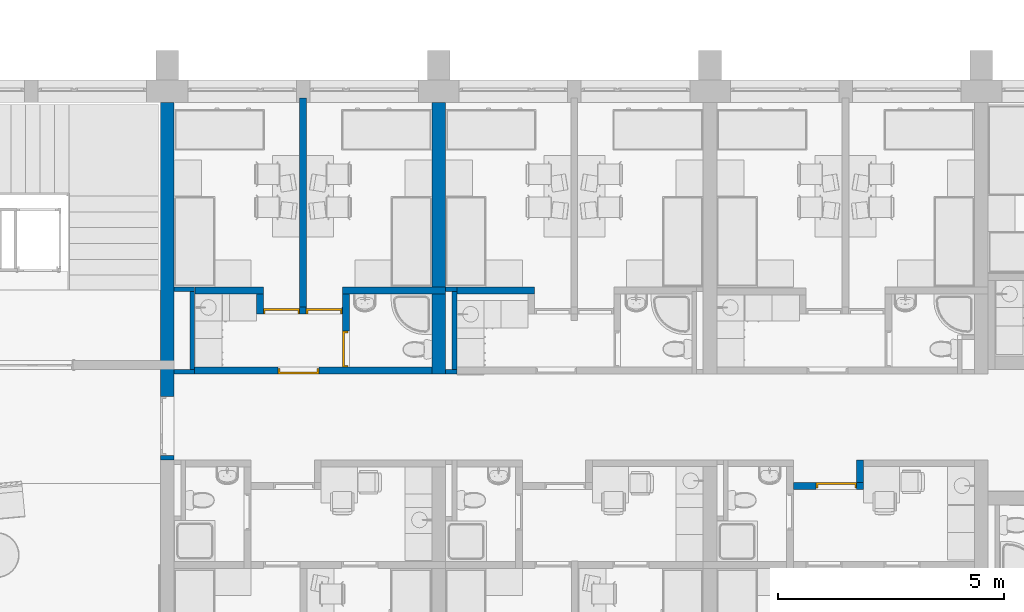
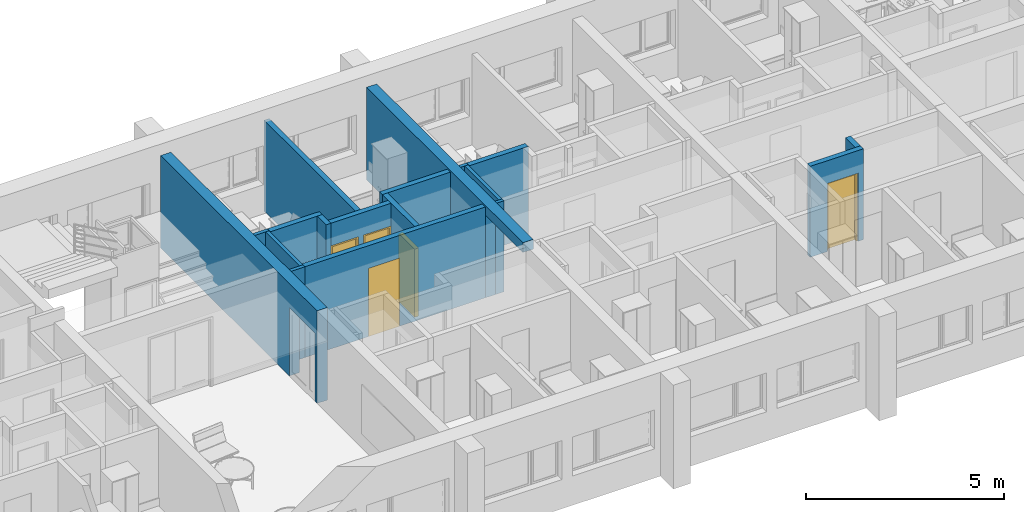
# One storey, part 16 of 165: 18 walls, 5 doors, 7 openings.
"""IFC2X3 building model written with IfcOpenShell, lengths in millimetres."""

from ifc_helpers import new_model, entity, si_unit, converted_unit, money_unit, direction, frame, origin_with_axes, place, context, subcontext, project, spatial, polyline, outline, extrude, faceted_brep, source, transform, mapped, material, material_list, layer, layer_set, layer_usage, type_object, element, fill, save


model = new_model("IFC2X3")

# Units and contexts
model_context = context("Model", 3, precision=1e-05, world=origin_with_axes(), true_north=direction((0.0, 1.0)))
body_context = subcontext(model_context, "Body", "Model", "MODEL_VIEW")
ifc_project = project(units=[si_unit("LENGTHUNIT", "METRE", prefix="MILLI"), si_unit("AREAUNIT", "SQUARE_METRE"), si_unit("VOLUMEUNIT", "CUBIC_METRE"), converted_unit("PLANEANGLEUNIT", "DEGREE", entity("IfcPlaneAngleMeasure", 0.0174532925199), si_unit("PLANEANGLEUNIT", "RADIAN"), dimensions=[0, 0, 0, 0, 0, 0, 0]), si_unit("SOLIDANGLEUNIT", "STERADIAN"), money_unit("USD"), converted_unit("TIMEUNIT", "Year", entity("IfcTimeMeasure", 31556926.0), si_unit("TIMEUNIT", "SECOND"), dimensions=[0, 0, 0, 0, 0, 0, 0]), si_unit("MASSUNIT", "GRAM"), si_unit("THERMODYNAMICTEMPERATUREUNIT", "DEGREE_CELSIUS"), si_unit("LUMINOUSINTENSITYUNIT", "LUMEN")], contexts=[model_context])

# Site, building, storey
site_placement = place(None, origin_with_axes())
site = spatial("IfcSite", under=ifc_project, at=site_placement, Name="Site", CompositionType="ELEMENT")
building_placement = place(site_placement, origin_with_axes())
building = spatial("IfcBuilding", under=site, at=building_placement, Name="Building", CompositionType="ELEMENT")
storey_placement = place(building_placement, frame((0.0, 0.0, 6300.0), z_axis=(0.0, 0.0, 1.0), x_axis=(1.0, 0.0, 0.0)))
storey = spatial("IfcBuildingStorey", under=building, at=storey_placement, Name="4KORRUS", CompositionType="ELEMENT", Elevation=6300.0)

# Wall, opening, door
ifc_material_1 = material(Name="UmbKipsplaat")
ifc_layer_1 = layer(ifc_material_1, 13.0, ventilated="UNKNOWN")
ifc_layer_2 = layer(ifc_material_1, 13.0, ventilated="UNKNOWN")
ifc_material_2 = material(Name="SOOJUSTUS MINERAALVILL")
ifc_layer_3 = layer(ifc_material_2, 98.0, ventilated="UNKNOWN")
ifc_layer_4 = layer(ifc_material_1, 13.0, ventilated="UNKNOWN")
ifc_layer_5 = layer(ifc_material_1, 13.0, ventilated="UNKNOWN")
ifc_layer_set_1 = layer_set([ifc_layer_1, ifc_layer_2, ifc_layer_3, ifc_layer_4, ifc_layer_5], Name="kipssein150")
ifc_layer_usage_1 = layer_usage(ifc_layer_set_1, "AXIS2", "POSITIVE", -150.0)
wall_type_1 = type_object("IfcWallType", Name="kipssein150 150", PredefinedType="NOTDEFINED")
wall_1_placement = place(storey_placement, frame((7703.60828238, -13539.4524083, 0.0), z_axis=(0.0, 0.0, 1.0), x_axis=(1.0, 0.0, 0.0)))
wall_1 = element("IfcWallStandardCase", 1, at=wall_1_placement, inside=storey, type_object=wall_type_1, material=ifc_layer_usage_1, Name="SS1", ObjectType="SS1", context=body_context, shape_type="SweptSolid", body=[
    extrude(outline(polyline([(0.0, -150.0), (1549.66067938, -150.0), (1549.66067938, 0.0), (0.0, 0.0), (0.0, -150.0)])), origin_with_axes(), (0.0, 0.0, 1.0), 2800.0),
])
opening_1_placement = place(wall_1_placement, frame((949.660679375, 0.0, 0.0), z_axis=(0.0, 0.0, 1.0), x_axis=(1.0, 0.0, 0.0)))
opening_1 = element("IfcOpeningElement", 2, at=opening_1_placement, cuts=wall_1, Name="SU2-5", context=body_context, shape_type="SweptSolid", body=[
    extrude(outline(polyline([(-450.0, -2100.0), (450.0, -2100.0), (450.0, 0.0), (-450.0, 0.0), (-450.0, -2100.0)])), frame((0.0, -150.0, 0.0), z_axis=(0.0, 1.0, 0.0), x_axis=(1.0, 0.0, 0.0)), (0.0, 0.0, 1.0), 450.0),
])
ifc_material_3 = material(Name="Background")
ifc_material_list = material_list([ifc_material_3])
door_style_1 = type_object("IfcDoorStyle", Name="Door 19", ConstructionType="NOTDEFINED", OperationType="SINGLE_SWING_RIGHT", ParameterTakesPrecedence=False, Sizeable=False)
shared_shape_1 = source(origin_with_axes(), body_context, "Body", "Brep", [
    faceted_brep([(-410.0, -40.0, 0.0), (-410.0, -40.0, 2060.0), (-410.0, -115.0, 2060.0), (-410.0, -115.0, 0.0), (-422.0, -40.0, 2060.0), (-422.0, -40.0, 0.0), (-422.0, 0.0, 2060.0), (-450.0, 0.0, 2060.0), (-450.0, -115.0, 2060.0), (-450.0, -115.0, 0.0), (-450.0, 0.0, 0.0), (-422.0, 0.0, 0.0)], [[[0, 1, 2, 3]], [[4, 1, 0, 5]], [[4, 6, 7, 8, 2, 1]], [[2, 8, 9, 3]], [[5, 0, 3, 9, 10, 11]], [[6, 4, 5, 11]], [[6, 11, 10, 7]], [[9, 8, 7, 10]]]),
    faceted_brep([(422.0, -40.0, 2060.0), (410.0, -40.0, 2060.0), (410.0, -115.0, 2060.0), (450.0, -115.0, 2060.0), (450.0, 0.0, 2060.0), (422.0, 0.0, 2060.0), (422.0, -40.0, 0.0), (410.0, -40.0, 0.0), (410.0, -115.0, 0.0), (450.0, -115.0, 0.0), (450.0, 0.0, 0.0), (422.0, 0.0, 0.0)], [[[0, 1, 2, 3, 4, 5]], [[1, 0, 6, 7]], [[1, 7, 8, 2]], [[2, 8, 9, 3]], [[3, 9, 10, 4]], [[11, 5, 4, 10]], [[0, 5, 11, 6]], [[6, 11, 10, 9, 8, 7]]]),
    faceted_brep([(-422.0, 0.0, 2072.0), (-422.0, 0.0, 2060.0), (-450.0, 0.0, 2060.0), (-450.0, 0.0, 2100.0), (450.0, 0.0, 2100.0), (450.0, 0.0, 2060.0), (422.0, 0.0, 2060.0), (422.0, 0.0, 2072.0), (-422.0, -40.0, 2072.0), (-422.0, -40.0, 2060.0), (-410.0, -40.0, 2060.0), (-410.0, -115.0, 2060.0), (-450.0, -115.0, 2060.0), (-450.0, -115.0, 2100.0), (450.0, -115.0, 2100.0), (450.0, -115.0, 2060.0), (422.0, -40.0, 2060.0), (410.0, -115.0, 2060.0), (410.0, -40.0, 2060.0), (422.0, -40.0, 2072.0)], [[[0, 1, 2, 3, 4, 5, 6, 7]], [[1, 0, 8, 9]], [[9, 10, 11, 12, 2, 1]], [[12, 13, 3, 2]], [[13, 14, 4, 3]], [[14, 15, 5, 4]], [[16, 6, 5, 15, 17, 18]], [[7, 6, 16, 19]], [[0, 7, 19, 8]], [[16, 18, 10, 9, 8, 19]], [[10, 18, 17, 11]], [[15, 14, 13, 12, 11, 17]]]),
    faceted_brep([(422.0, 0.0, 0.0), (422.0, -40.0, 0.0), (-422.0, -40.0, 0.0), (-422.0, 0.0, 0.0), (422.0, 0.0, 2072.0), (422.0, -40.0, 2072.0), (-422.0, -40.0, 2072.0), (-422.0, 0.0, 2072.0)], [[[0, 1, 2, 3]], [[4, 5, 1, 0]], [[1, 5, 6, 2]], [[3, 2, 6, 7]], [[0, 3, 7, 4]], [[7, 6, 5, 4]]]),
])
door_1_placement = place(opening_1_placement, frame((-450.0, 0.0, 0.0), z_axis=(0.0, 0.0, 1.0), x_axis=(1.0, 0.0, 0.0)))
door_1 = element("IfcDoor", 3, at=door_1_placement, inside=storey, type_object=door_style_1, material=ifc_material_list, Name="SU2-5", ObjectType="Korteri välisuks", OverallHeight=2100.0, OverallWidth=900.0, context=body_context, shape_type="MappedRepresentation", body=[
    mapped(shared_shape_1, transform((450.0, 0.0, 0.0))),
])
fill(opening_1, door_1)

ifc_layer_usage_2 = layer_usage(ifc_layer_set_1, "AXIS2", "POSITIVE", 0.0)
wall_2_placement = place(storey_placement, frame((-5540.30226501, -11136.6041535, 0.0), z_axis=(0.0, 0.0, 1.0), x_axis=(1.0, 0.0, 0.0)))
wall_2 = element("IfcWallStandardCase", 4, at=wall_2_placement, inside=storey, type_object=wall_type_1, material=ifc_layer_usage_2, Name="SS1", ObjectType="SS1", context=body_context, shape_type="SweptSolid", body=[
    extrude(outline(polyline([(0.0, 0.0), (5250.00556169, 0.0), (5250.00556169, 150.0), (0.0, 150.0), (0.0, 0.0)])), origin_with_axes(), (0.0, 0.0, 1.0), 2800.0),
])
opening_2_placement = place(wall_2_placement, frame((2299.5587421, 0.0, 0.0), z_axis=(0.0, 0.0, 1.0), x_axis=(1.0, 0.0, 0.0)))
opening_2 = element("IfcOpeningElement", 5, at=opening_2_placement, cuts=wall_2, Name="SU2-6", context=body_context, shape_type="SweptSolid", body=[
    extrude(outline(polyline([(-450.0, -2100.0), (450.0, -2100.0), (450.0, 0.0), (-450.0, 0.0), (-450.0, -2100.0)])), frame((0.0, 150.0, 0.0), z_axis=(0.0, 1.0, 0.0), x_axis=(1.0, 0.0, 0.0)), (0.0, 0.0, -1.0), 450.0),
])
door_style_2 = type_object("IfcDoorStyle", Name="Door 19", ConstructionType="NOTDEFINED", OperationType="SINGLE_SWING_LEFT", ParameterTakesPrecedence=False, Sizeable=False)
shared_shape_2 = source(origin_with_axes(), body_context, "Body", "Brep", [
    faceted_brep([(410.0, -40.0, 0.0), (410.0, -115.0, 0.0), (410.0, -115.0, 2060.0), (410.0, -40.0, 2060.0), (422.0, -40.0, 0.0), (422.0, 0.0, 0.0), (450.0, 0.0, 0.0), (450.0, -115.0, 0.0), (450.0, -115.0, 2060.0), (422.0, -40.0, 2060.0), (450.0, 0.0, 2060.0), (422.0, 0.0, 2060.0)], [[[0, 1, 2, 3]], [[4, 5, 6, 7, 1, 0]], [[2, 1, 7, 8]], [[9, 3, 2, 8, 10, 11]], [[9, 4, 0, 3]], [[11, 5, 4, 9]], [[11, 10, 6, 5]], [[7, 6, 10, 8]]]),
    faceted_brep([(-422.0, -40.0, 2060.0), (-422.0, 0.0, 2060.0), (-450.0, 0.0, 2060.0), (-450.0, -115.0, 2060.0), (-410.0, -115.0, 2060.0), (-410.0, -40.0, 2060.0), (-422.0, -40.0, 0.0), (-422.0, 0.0, 0.0), (-450.0, 0.0, 0.0), (-450.0, -115.0, 0.0), (-410.0, -115.0, 0.0), (-410.0, -40.0, 0.0)], [[[0, 1, 2, 3, 4, 5]], [[0, 6, 7, 1]], [[7, 8, 2, 1]], [[3, 2, 8, 9]], [[4, 3, 9, 10]], [[5, 4, 10, 11]], [[5, 11, 6, 0]], [[6, 11, 10, 9, 8, 7]]]),
    faceted_brep([(422.0, 0.0, 2072.0), (-422.0, 0.0, 2072.0), (-422.0, 0.0, 2060.0), (-450.0, 0.0, 2060.0), (-450.0, 0.0, 2100.0), (450.0, 0.0, 2100.0), (450.0, 0.0, 2060.0), (422.0, 0.0, 2060.0), (422.0, -40.0, 2072.0), (-422.0, -40.0, 2072.0), (-422.0, -40.0, 2060.0), (-410.0, -40.0, 2060.0), (-410.0, -115.0, 2060.0), (-450.0, -115.0, 2060.0), (-450.0, -115.0, 2100.0), (450.0, -115.0, 2100.0), (450.0, -115.0, 2060.0), (422.0, -40.0, 2060.0), (410.0, -115.0, 2060.0), (410.0, -40.0, 2060.0)], [[[0, 1, 2, 3, 4, 5, 6, 7]], [[0, 8, 9, 1]], [[1, 9, 10, 2]], [[10, 11, 12, 13, 3, 2]], [[14, 4, 3, 13]], [[15, 5, 4, 14]], [[16, 6, 5, 15]], [[17, 7, 6, 16, 18, 19]], [[7, 17, 8, 0]], [[10, 9, 8, 17, 19, 11]], [[19, 18, 12, 11]], [[13, 12, 18, 16, 15, 14]]]),
    faceted_brep([(-422.0, 0.0, 0.0), (422.0, 0.0, 0.0), (422.0, -40.0, 0.0), (-422.0, -40.0, 0.0), (-422.0, 0.0, 2072.0), (422.0, 0.0, 2072.0), (422.0, -40.0, 2072.0), (-422.0, -40.0, 2072.0)], [[[0, 1, 2, 3]], [[0, 4, 5, 1]], [[1, 5, 6, 2]], [[3, 2, 6, 7]], [[4, 0, 3, 7]], [[5, 4, 7, 6]]]),
])
door_2_placement = place(opening_2_placement, frame((450.0, 0.0, 0.0), z_axis=(0.0, 0.0, 1.0), x_axis=(-1.0, 0.0, 0.0)))
door_2 = element("IfcDoor", 6, at=door_2_placement, inside=storey, type_object=door_style_2, material=ifc_material_list, Name="SU2-6", ObjectType="Korteri välisuks", OverallHeight=2100.0, OverallWidth=900.0, context=body_context, shape_type="MappedRepresentation", body=[
    mapped(shared_shape_2, transform((450.0, 0.0, 0.0))),
])
fill(opening_2, door_2)

# Walls
ifc_layer_usage_3 = layer_usage(ifc_layer_set_1, "AXIS2", "POSITIVE", -150.0)
wall_3_placement = place(storey_placement, frame((1984.2564771, -9366.37850445, 0.0), z_axis=(0.0, 0.0, 1.0), x_axis=(-1.0, 0.0, 0.0)))
element("IfcWallStandardCase", 7, at=wall_3_placement, inside=storey, type_object=wall_type_1, material=ifc_layer_usage_3, Name="SS1", ObjectType="SS1", context=body_context, shape_type="SweptSolid", body=[
    extrude(outline(polyline([(0.0, -150.0), (1717.5587421, -150.0), (1717.5587421, 0.0), (0.0, 0.0), (0.0, -150.0)])), origin_with_axes(), (0.0, 0.0, 1.0), 2800.0),
])
ifc_layer_usage_4 = layer_usage(ifc_layer_set_1, "AXIS2", "POSITIVE", 0.0)
wall_4_placement = place(storey_placement, frame((-2265.29670331, -9367.37850445, 0.0), z_axis=(0.0, 0.0, 1.0), x_axis=(1.0, 0.0, 0.0)))
element("IfcWallStandardCase", 8, at=wall_4_placement, inside=storey, type_object=wall_type_1, material=ifc_layer_usage_4, Name="SS1", ObjectType="SS1", context=body_context, shape_type="SweptSolid", body=[
    extrude(outline(polyline([(0.0, 0.0), (2275.0, 0.0), (2275.0, 150.0), (0.0, 150.0), (0.0, 0.0)])), origin_with_axes(), (0.0, 0.0, 1.0), 2800.0),
])

# Wall, opening, door
ifc_layer_usage_5 = layer_usage(ifc_layer_set_1, "AXIS2", "POSITIVE", 0.0)
wall_5_placement = place(storey_placement, frame((-2265.29670331, -9367.37850445, 0.0), z_axis=(0.0, 0.0, 1.0), x_axis=(0.0, -1.0, 0.0)))
wall_5 = element("IfcWallStandardCase", 9, at=wall_5_placement, inside=storey, type_object=wall_type_1, material=ifc_layer_usage_5, Name="SS1", ObjectType="SS1", context=body_context, shape_type="SweptSolid", body=[
    extrude(outline(polyline([(0.0, 0.0), (1619.22560435, 0.0), (1619.22560435, 150.0), (0.0, 150.0), (0.0, 0.0)])), origin_with_axes(), (0.0, 0.0, 1.0), 2800.0),
])
opening_3_placement = place(wall_5_placement, frame((1219.22560435, 0.0, 0.0), z_axis=(0.0, 0.0, 1.0), x_axis=(1.0, 0.0, 0.0)))
opening_3 = element("IfcOpeningElement", 10, at=opening_3_placement, cuts=wall_5, Name="SU3-3", context=body_context, shape_type="SweptSolid", body=[
    extrude(outline(polyline([(-400.0, -2100.0), (400.0, -2100.0), (400.0, 0.0), (-400.0, 0.0), (-400.0, -2100.0)])), frame((0.0, 150.0, 0.0), z_axis=(0.0, 1.0, 0.0), x_axis=(1.0, 0.0, 0.0)), (0.0, 0.0, -1.0), 450.0),
])
shared_shape_3 = source(origin_with_axes(), body_context, "Body", "Brep", [
    faceted_brep([(360.0, -40.0, 0.0), (360.0, -115.0, 0.0), (360.0, -115.0, 2060.0), (360.0, -40.0, 2060.0), (372.0, -40.0, 0.0), (372.0, 0.0, 0.0), (400.0, 0.0, 0.0), (400.0, -115.0, 0.0), (400.0, -115.0, 2060.0), (372.0, -40.0, 2060.0), (400.0, 0.0, 2060.0), (372.0, 0.0, 2060.0)], [[[0, 1, 2, 3]], [[4, 5, 6, 7, 1, 0]], [[2, 1, 7, 8]], [[9, 3, 2, 8, 10, 11]], [[9, 4, 0, 3]], [[11, 5, 4, 9]], [[11, 10, 6, 5]], [[7, 6, 10, 8]]]),
    faceted_brep([(-372.0, -40.0, 2060.0), (-372.0, 0.0, 2060.0), (-400.0, 0.0, 2060.0), (-400.0, -115.0, 2060.0), (-360.0, -115.0, 2060.0), (-360.0, -40.0, 2060.0), (-372.0, -40.0, 0.0), (-372.0, 0.0, 0.0), (-400.0, 0.0, 0.0), (-400.0, -115.0, 0.0), (-360.0, -115.0, 0.0), (-360.0, -40.0, 0.0)], [[[0, 1, 2, 3, 4, 5]], [[0, 6, 7, 1]], [[7, 8, 2, 1]], [[3, 2, 8, 9]], [[4, 3, 9, 10]], [[5, 4, 10, 11]], [[5, 11, 6, 0]], [[6, 11, 10, 9, 8, 7]]]),
    faceted_brep([(372.0, 0.0, 2072.0), (-372.0, 0.0, 2072.0), (-372.0, 0.0, 2060.0), (-400.0, 0.0, 2060.0), (-400.0, 0.0, 2100.0), (400.0, 0.0, 2100.0), (400.0, 0.0, 2060.0), (372.0, 0.0, 2060.0), (372.0, -40.0, 2072.0), (-372.0, -40.0, 2072.0), (-372.0, -40.0, 2060.0), (-360.0, -40.0, 2060.0), (-360.0, -115.0, 2060.0), (-400.0, -115.0, 2060.0), (-400.0, -115.0, 2100.0), (400.0, -115.0, 2100.0), (400.0, -115.0, 2060.0), (372.0, -40.0, 2060.0), (360.0, -115.0, 2060.0), (360.0, -40.0, 2060.0)], [[[0, 1, 2, 3, 4, 5, 6, 7]], [[0, 8, 9, 1]], [[1, 9, 10, 2]], [[10, 11, 12, 13, 3, 2]], [[14, 4, 3, 13]], [[15, 5, 4, 14]], [[16, 6, 5, 15]], [[17, 7, 6, 16, 18, 19]], [[7, 17, 8, 0]], [[10, 9, 8, 17, 19, 11]], [[19, 18, 12, 11]], [[13, 12, 18, 16, 15, 14]]]),
    faceted_brep([(-372.0, 0.0, 0.0), (372.0, 0.0, 0.0), (372.0, -40.0, 0.0), (-372.0, -40.0, 0.0), (-372.0, 0.0, 2072.0), (372.0, 0.0, 2072.0), (372.0, -40.0, 2072.0), (-372.0, -40.0, 2072.0)], [[[0, 1, 2, 3]], [[0, 4, 5, 1]], [[1, 5, 6, 2]], [[3, 2, 6, 7]], [[4, 0, 3, 7]], [[5, 4, 7, 6]]]),
])
door_3_placement = place(opening_3_placement, frame((400.0, 0.0, 0.0), z_axis=(0.0, 0.0, 1.0), x_axis=(-1.0, 0.0, 0.0)))
door_3 = element("IfcDoor", 11, at=door_3_placement, inside=storey, type_object=door_style_2, material=ifc_material_list, Name="SU3-3", ObjectType="WC-uks", OverallHeight=2100.0, OverallWidth=800.0, context=body_context, shape_type="MappedRepresentation", body=[
    mapped(shared_shape_3, transform((400.0, 0.0, 0.0))),
])
fill(opening_3, door_3)

# Walls
ifc_layer_usage_6 = layer_usage(ifc_layer_set_1, "AXIS2", "POSITIVE", -150.0)
wall_6_placement = place(storey_placement, frame((-4015.7435229, -9366.37850445, 0.0), z_axis=(0.0, 0.0, 1.0), x_axis=(-1.0, 0.0, 0.0)))
element("IfcWallStandardCase", 12, at=wall_6_placement, inside=storey, type_object=wall_type_1, material=ifc_layer_usage_6, Name="SS1", ObjectType="SS1", context=body_context, shape_type="SweptSolid", body=[
    extrude(outline(polyline([(0.0, -150.0), (1517.5587421, -150.0), (1517.5587421, 0.0), (0.0, 0.0), (0.0, -150.0)])), origin_with_axes(), (0.0, 0.0, 1.0), 2800.0),
])
ifc_layer_usage_7 = layer_usage(ifc_layer_set_1, "AXIS2", "POSITIVE", -150.0)
wall_7_placement = place(storey_placement, frame((-4015.7435229, -9366.37850445, 0.0), z_axis=(0.0, 0.0, 1.0), x_axis=(0.0, -1.0, 0.0)))
element("IfcWallStandardCase", 13, at=wall_7_placement, inside=storey, type_object=wall_type_1, material=ifc_layer_usage_7, Name="SS1", ObjectType="SS1", context=body_context, shape_type="SweptSolid", body=[
    extrude(outline(polyline([(0.0, -150.0), (440.515634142, -150.0), (440.515634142, 0.0), (0.0, 0.0), (0.0, -150.0)])), origin_with_axes(), (0.0, 0.0, 1.0), 2800.0),
])

# Wall, openings, doors
ifc_layer_usage_8 = layer_usage(ifc_layer_set_1, "AXIS2", "POSITIVE", 0.0)
wall_8_placement = place(storey_placement, frame((-4015.7435229, -9806.8941833, 0.0), z_axis=(0.0, 0.0, 1.0), x_axis=(1.0, 0.0, 0.0)))
wall_8 = element("IfcWallStandardCase", 14, at=wall_8_placement, inside=storey, type_object=wall_type_1, material=ifc_layer_usage_8, Name="SS1", ObjectType="SS1", context=body_context, shape_type="SweptSolid", body=[
    extrude(outline(polyline([(0.0, 0.0), (1750.44681959, 0.0), (1750.44681959, 150.0), (0.0, 150.0), (0.0, 0.0)])), origin_with_axes(), (0.0, 0.0, 1.0), 2800.0),
])
opening_4_placement = place(wall_8_placement, frame((1341.45577623, 0.0, 0.0), z_axis=(0.0, 0.0, 1.0), x_axis=(1.0, 0.0, 0.0)))
opening_4 = element("IfcOpeningElement", 15, at=opening_4_placement, cuts=wall_8, Name="SU3-5", context=body_context, shape_type="SweptSolid", body=[
    extrude(outline(polyline([(-400.0, 0.0), (400.0, 0.0), (400.0, 2100.0), (-400.0, 2100.0), (-400.0, 0.0)])), frame((0.0, 150.0, 0.0), z_axis=(0.0, 1.0, 0.0), x_axis=(-1.0, 0.0, 0.0)), (0.0, 0.0, -1.0), 450.0),
])
opening_5_placement = place(wall_8_placement, frame((400.0, 0.0, 0.0), z_axis=(0.0, 0.0, 1.0), x_axis=(1.0, 0.0, 0.0)))
opening_5 = element("IfcOpeningElement", 16, at=opening_5_placement, cuts=wall_8, Name="SU3-4", context=body_context, shape_type="SweptSolid", body=[
    extrude(outline(polyline([(-400.0, 0.0), (400.0, 0.0), (400.0, 2100.0), (-400.0, 2100.0), (-400.0, 0.0)])), frame((0.0, 150.0, 0.0), z_axis=(0.0, -1.0, 0.0), x_axis=(1.0, 0.0, 0.0)), (0.0, 0.0, 1.0), 450.0),
])
door_style_3 = type_object("IfcDoorStyle", Name="Door 19", ConstructionType="NOTDEFINED", OperationType="SINGLE_SWING_LEFT", ParameterTakesPrecedence=False, Sizeable=False)
shared_shape_4 = source(origin_with_axes(), body_context, "Body", "Brep", [
    faceted_brep([(360.0, -75.0, 0.0), (360.0, -150.0, 0.0), (360.0, -150.0, 2060.0), (360.0, -75.0, 2060.0), (372.0, -75.0, 0.0), (372.0, -35.0, 0.0), (400.0, -35.0, 0.0), (400.0, -150.0, 0.0), (400.0, -150.0, 2060.0), (372.0, -75.0, 2060.0), (400.0, -35.0, 2060.0), (372.0, -35.0, 2060.0)], [[[0, 1, 2, 3]], [[4, 5, 6, 7, 1, 0]], [[2, 1, 7, 8]], [[9, 3, 2, 8, 10, 11]], [[9, 4, 0, 3]], [[11, 5, 4, 9]], [[11, 10, 6, 5]], [[7, 6, 10, 8]]]),
    faceted_brep([(-372.0, -75.0, 2060.0), (-372.0, -35.0, 2060.0), (-400.0, -35.0, 2060.0), (-400.0, -150.0, 2060.0), (-360.0, -150.0, 2060.0), (-360.0, -75.0, 2060.0), (-372.0, -75.0, 0.0), (-372.0, -35.0, 0.0), (-400.0, -35.0, 0.0), (-400.0, -150.0, 0.0), (-360.0, -150.0, 0.0), (-360.0, -75.0, 0.0)], [[[0, 1, 2, 3, 4, 5]], [[0, 6, 7, 1]], [[7, 8, 2, 1]], [[3, 2, 8, 9]], [[4, 3, 9, 10]], [[5, 4, 10, 11]], [[5, 11, 6, 0]], [[6, 11, 10, 9, 8, 7]]]),
    faceted_brep([(372.0, -35.0, 2072.0), (-372.0, -35.0, 2072.0), (-372.0, -35.0, 2060.0), (-400.0, -35.0, 2060.0), (-400.0, -35.0, 2100.0), (400.0, -35.0, 2100.0), (400.0, -35.0, 2060.0), (372.0, -35.0, 2060.0), (372.0, -75.0, 2072.0), (-372.0, -75.0, 2072.0), (-372.0, -75.0, 2060.0), (-360.0, -75.0, 2060.0), (-360.0, -150.0, 2060.0), (-400.0, -150.0, 2060.0), (-400.0, -150.0, 2100.0), (400.0, -150.0, 2100.0), (400.0, -150.0, 2060.0), (372.0, -75.0, 2060.0), (360.0, -150.0, 2060.0), (360.0, -75.0, 2060.0)], [[[0, 1, 2, 3, 4, 5, 6, 7]], [[0, 8, 9, 1]], [[1, 9, 10, 2]], [[10, 11, 12, 13, 3, 2]], [[14, 4, 3, 13]], [[15, 5, 4, 14]], [[16, 6, 5, 15]], [[17, 7, 6, 16, 18, 19]], [[7, 17, 8, 0]], [[10, 9, 8, 17, 19, 11]], [[19, 18, 12, 11]], [[13, 12, 18, 16, 15, 14]]]),
    faceted_brep([(-372.0, -35.0, 0.0), (372.0, -35.0, 0.0), (372.0, -75.0, 0.0), (-372.0, -75.0, 0.0), (-372.0, -35.0, 2072.0), (372.0, -35.0, 2072.0), (372.0, -75.0, 2072.0), (-372.0, -75.0, 2072.0)], [[[0, 1, 2, 3]], [[0, 4, 5, 1]], [[1, 5, 6, 2]], [[3, 2, 6, 7]], [[4, 0, 3, 7]], [[5, 4, 7, 6]]]),
])
door_4_placement = place(opening_4_placement, frame((-400.0, 0.0, 0.0), z_axis=(0.0, 0.0, 1.0), x_axis=(1.0, 0.0, 0.0)))
door_4 = element("IfcDoor", 17, at=door_4_placement, inside=storey, type_object=door_style_3, material=ifc_material_list, Name="SU3-5", ObjectType="Toa uks", OverallHeight=2100.0, OverallWidth=800.0, context=body_context, shape_type="MappedRepresentation", body=[
    mapped(shared_shape_4, transform((400.0, 150.0, 0.0))),
])
fill(opening_4, door_4)
door_style_4 = type_object("IfcDoorStyle", Name="Door 19", ConstructionType="NOTDEFINED", OperationType="SINGLE_SWING_RIGHT", ParameterTakesPrecedence=False, Sizeable=False)
shared_shape_5 = source(origin_with_axes(), body_context, "Body", "Brep", [
    faceted_brep([(-360.0, -75.0, 0.0), (-360.0, -75.0, 2060.0), (-360.0, -150.0, 2060.0), (-360.0, -150.0, 0.0), (-372.0, -75.0, 2060.0), (-372.0, -75.0, 0.0), (-372.0, -35.0, 2060.0), (-400.0, -35.0, 2060.0), (-400.0, -150.0, 2060.0), (-400.0, -150.0, 0.0), (-400.0, -35.0, 0.0), (-372.0, -35.0, 0.0)], [[[0, 1, 2, 3]], [[4, 1, 0, 5]], [[4, 6, 7, 8, 2, 1]], [[2, 8, 9, 3]], [[5, 0, 3, 9, 10, 11]], [[6, 4, 5, 11]], [[6, 11, 10, 7]], [[9, 8, 7, 10]]]),
    faceted_brep([(372.0, -75.0, 2060.0), (360.0, -75.0, 2060.0), (360.0, -150.0, 2060.0), (400.0, -150.0, 2060.0), (400.0, -35.0, 2060.0), (372.0, -35.0, 2060.0), (372.0, -75.0, 0.0), (360.0, -75.0, 0.0), (360.0, -150.0, 0.0), (400.0, -150.0, 0.0), (400.0, -35.0, 0.0), (372.0, -35.0, 0.0)], [[[0, 1, 2, 3, 4, 5]], [[1, 0, 6, 7]], [[1, 7, 8, 2]], [[2, 8, 9, 3]], [[3, 9, 10, 4]], [[11, 5, 4, 10]], [[0, 5, 11, 6]], [[6, 11, 10, 9, 8, 7]]]),
    faceted_brep([(-372.0, -35.0, 2072.0), (-372.0, -35.0, 2060.0), (-400.0, -35.0, 2060.0), (-400.0, -35.0, 2100.0), (400.0, -35.0, 2100.0), (400.0, -35.0, 2060.0), (372.0, -35.0, 2060.0), (372.0, -35.0, 2072.0), (-372.0, -75.0, 2072.0), (-372.0, -75.0, 2060.0), (-360.0, -75.0, 2060.0), (-360.0, -150.0, 2060.0), (-400.0, -150.0, 2060.0), (-400.0, -150.0, 2100.0), (400.0, -150.0, 2100.0), (400.0, -150.0, 2060.0), (372.0, -75.0, 2060.0), (360.0, -150.0, 2060.0), (360.0, -75.0, 2060.0), (372.0, -75.0, 2072.0)], [[[0, 1, 2, 3, 4, 5, 6, 7]], [[1, 0, 8, 9]], [[9, 10, 11, 12, 2, 1]], [[12, 13, 3, 2]], [[13, 14, 4, 3]], [[14, 15, 5, 4]], [[16, 6, 5, 15, 17, 18]], [[7, 6, 16, 19]], [[0, 7, 19, 8]], [[16, 18, 10, 9, 8, 19]], [[10, 18, 17, 11]], [[15, 14, 13, 12, 11, 17]]]),
    faceted_brep([(372.0, -35.0, 0.0), (372.0, -75.0, 0.0), (-372.0, -75.0, 0.0), (-372.0, -35.0, 0.0), (372.0, -35.0, 2072.0), (372.0, -75.0, 2072.0), (-372.0, -75.0, 2072.0), (-372.0, -35.0, 2072.0)], [[[0, 1, 2, 3]], [[4, 5, 1, 0]], [[1, 5, 6, 2]], [[3, 2, 6, 7]], [[0, 3, 7, 4]], [[7, 6, 5, 4]]]),
])
door_5_placement = place(opening_5_placement, frame((-400.0, 0.0, 0.0), z_axis=(0.0, 0.0, 1.0), x_axis=(1.0, 0.0, 0.0)))
door_5 = element("IfcDoor", 18, at=door_5_placement, inside=storey, type_object=door_style_4, material=ifc_material_list, Name="SU3-4", ObjectType="Toa uks", OverallHeight=2100.0, OverallWidth=800.0, context=body_context, shape_type="MappedRepresentation", body=[
    mapped(shared_shape_5, transform((400.0, 150.0, 0.0))),
])
fill(opening_5, door_5)

# Walls
ifc_layer_usage_9 = layer_usage(ifc_layer_set_1, "AXIS2", "POSITIVE", 0.0)
wall_9_placement = place(storey_placement, frame((-3215.7435229, -5039.6041088, 0.0), z_axis=(0.0, 0.0, 1.0), x_axis=(0.0, -1.0, 0.0)))
element("IfcWallStandardCase", 19, at=wall_9_placement, inside=storey, type_object=wall_type_1, material=ifc_layer_usage_9, Name="SS1", ObjectType="SS1", context=body_context, shape_type="SweptSolid", body=[
    extrude(outline(polyline([(0.0, 0.0), (4767.2900745, 0.0), (4767.2900745, 150.0), (0.0, 150.0), (0.0, 0.0)])), origin_with_axes(), (0.0, 0.0, 1.0), 2800.0),
])
ifc_layer_usage_10 = layer_usage(ifc_layer_set_1, "AXIS2", "POSITIVE", -150.0)
wall_10_placement = place(storey_placement, frame((9253.26896176, -13039.2398994, 0.0), z_axis=(0.0, 0.0, 1.0), x_axis=(0.0, -1.0, 0.0)))
element("IfcWallStandardCase", 20, at=wall_10_placement, inside=storey, type_object=wall_type_1, material=ifc_layer_usage_10, Name="SS1", ObjectType="SS1", context=body_context, shape_type="SweptSolid", body=[
    extrude(outline(polyline([(0.0, -150.0), (500.212508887, -150.0), (500.212508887, 0.0), (0.0, 0.0), (0.0, -150.0)])), origin_with_axes(), (0.0, 0.0, 1.0), 2800.0),
])

# Wall, opening
ifc_material_4 = material(Name="Olemasolevad seinad tellis, uus viimistlus")
ifc_layer_6 = layer(ifc_material_4, 300.0, ventilated="UNKNOWN")
ifc_layer_set_2 = layer_set([ifc_layer_6], Name="Olemasolevad seinad tellis, uus viimistlus  300")
ifc_layer_usage_11 = layer_usage(ifc_layer_set_2, "AXIS2", "POSITIVE", 0.0)
wall_type_2 = type_object("IfcWallType", Name="Olemasolevad seinad tellis, uus viimistlus  300", PredefinedType="NOTDEFINED")
wall_11_placement = place(storey_placement, frame((-5990.29670331, -13036.3705726, 0.0), z_axis=(0.0, 0.0, 1.0), x_axis=(0.0, 1.0, 0.0)))
wall_11 = element("IfcWallStandardCase", 21, at=wall_11_placement, inside=storey, type_object=wall_type_2, material=ifc_layer_usage_11, Name="KS1", ObjectType="KS1", context=body_context, shape_type="SweptSolid", body=[
    extrude(outline(polyline([(0.0, 0.0), (7896.7664638, 0.0), (7896.7664638, 300.0), (0.0, 300.0), (0.0, 0.0)])), origin_with_axes(), (0.0, 0.0, 1.0), 2850.0),
])
opening_6_placement = place(wall_11_placement, frame((747.130673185, 0.0, 0.0), z_axis=(0.0, 0.0, 1.0), x_axis=(1.0, 0.0, 0.0)))
element("IfcOpeningElement", 22, at=opening_6_placement, cuts=wall_11, Name="SU4-22", context=body_context, shape_type="SweptSolid", body=[
    extrude(outline(polyline([(-650.0, -2100.0), (650.0, -2100.0), (650.0, 0.0), (-650.0, 0.0), (-650.0, -2100.0)])), frame((0.0, -300.0, 0.0), z_axis=(0.0, 1.0, 0.0), x_axis=(1.0, 0.0, 0.0)), (0.0, 0.0, 1.0), 900.0),
])

ifc_layer_usage_12 = layer_usage(ifc_layer_set_2, "AXIS2", "POSITIVE", 0.0)
wall_12_placement = place(storey_placement, frame((9.70329668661, -13036.3705726, 0.0), z_axis=(0.0, 0.0, 1.0), x_axis=(0.0, 1.0, 0.0)))
wall_12 = element("IfcWallStandardCase", 23, at=wall_12_placement, inside=storey, type_object=wall_type_2, material=ifc_layer_usage_12, Name="KS1", ObjectType="KS1", context=body_context, shape_type="SweptSolid", body=[
    extrude(outline(polyline([(0.0, 0.0), (7896.7664638, 0.0), (7896.7664638, 300.0), (0.0, 300.0), (0.0, 0.0)])), origin_with_axes(), (0.0, 0.0, 1.0), 2850.0),
])
opening_7_placement = place(wall_12_placement, frame((948.317872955, 0.0, 0.0), z_axis=(0.0, 0.0, 1.0), x_axis=(1.0, 0.0, 0.0)))
element("IfcOpeningElement", 24, at=opening_7_placement, cuts=wall_12, Name="DOO - 001", context=body_context, shape_type="SweptSolid", body=[
    extrude(outline(polyline([(-951.449, 2550.0), (-951.449, 0.0), (951.449, 0.0), (951.449, 2550.0), (-951.449, 2550.0)])), frame((0.0, 0.0, 0.0), z_axis=(0.0, -1.0, 0.0), x_axis=(1.0, 0.0, 0.0)), (0.0, 0.0, 1.0), 300.0),
    extrude(outline(polyline([(-951.449, 0.0), (-951.449, -2550.0), (951.449, -2550.0), (951.449, 0.0), (-951.449, 0.0)])), frame((0.0, 0.0, 0.0), z_axis=(0.0, 1.0, 0.0), x_axis=(1.0, 0.0, 0.0)), (0.0, 0.0, 1.0), 300.0),
])

# Walls
ifc_material_5 = material(Name="krohv")
ifc_layer_7 = layer(ifc_material_5, 2.0, ventilated="UNKNOWN")
ifc_layer_8 = layer(ifc_material_5, 10.0, ventilated="UNKNOWN")
ifc_material_6 = material(Name="Kergplokk")
ifc_layer_9 = layer(ifc_material_6, 76.0, ventilated="UNKNOWN")
ifc_layer_10 = layer(ifc_material_5, 10.0, ventilated="UNKNOWN")
ifc_layer_11 = layer(ifc_material_5, 2.0, ventilated="UNKNOWN")
ifc_layer_set_3 = layer_set([ifc_layer_7, ifc_layer_8, ifc_layer_9, ifc_layer_10, ifc_layer_11], Name="Kergplokk Bauroc 100")
ifc_layer_usage_13 = layer_usage(ifc_layer_set_3, "AXIS2", "POSITIVE", 0.0)
wall_type_3 = type_object("IfcWallType", Name="Kergplokk Bauroc 100 100", PredefinedType="NOTDEFINED")
wall_13_placement = place(storey_placement, frame((9.70329668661, -11136.6041535, 0.0), z_axis=(0.0, 0.0, 1.0), x_axis=(1.0, 0.0, 0.0)))
element("IfcWallStandardCase", 25, at=wall_13_placement, inside=storey, type_object=wall_type_3, material=ifc_layer_usage_13, Name="SS2", ObjectType="sahtisein", context=body_context, shape_type="SweptSolid", body=[
    extrude(outline(polyline([(0.0, 0.0), (249.994438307, 0.0), (249.994438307, 100.0), (0.0, 100.0), (0.0, 0.0)])), origin_with_axes(), (0.0, 0.0, 1.0), 2800.0),
])
ifc_layer_usage_14 = layer_usage(ifc_layer_set_3, "AXIS2", "POSITIVE", -100.0)
wall_14_placement = place(storey_placement, frame((-5540.30226501, -9313.30556125, 0.0), z_axis=(0.0, 0.0, 1.0), x_axis=(-1.0, 0.0, 0.0)))
element("IfcWallStandardCase", 26, at=wall_14_placement, inside=storey, type_object=wall_type_3, material=ifc_layer_usage_14, Name="SS2", ObjectType="SS2", context=body_context, shape_type="SweptSolid", body=[
    extrude(outline(polyline([(0.0, -100.0), (449.994438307, -100.0), (449.994438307, 0.0), (0.0, 0.0), (0.0, -100.0)])), origin_with_axes(), (0.0, 0.0, 1.0), 2800.0),
])
ifc_layer_usage_15 = layer_usage(ifc_layer_set_3, "AXIS2", "POSITIVE", -100.0)
wall_15_placement = place(storey_placement, frame((9.70329668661, -9213.30556125, 0.0), z_axis=(0.0, 0.0, 1.0), x_axis=(1.0, 0.0, 0.0)))
element("IfcWallStandardCase", 27, at=wall_15_placement, inside=storey, type_object=wall_type_3, material=ifc_layer_usage_15, Name="SS2", ObjectType="sahtisein", context=body_context, shape_type="SweptSolid", body=[
    extrude(outline(polyline([(0.0, -100.0), (249.994438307, -100.0), (249.994438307, 0.0), (0.0, 0.0), (0.0, -100.0)])), origin_with_axes(), (0.0, 0.0, 1.0), 2800.0),
])
ifc_layer_usage_16 = layer_usage(ifc_layer_set_3, "AXIS2", "POSITIVE", 0.0)
wall_16_placement = place(storey_placement, frame((259.697734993, -11136.6041535, 0.0), z_axis=(0.0, 0.0, 1.0), x_axis=(0.0, 1.0, 0.0)))
element("IfcWallStandardCase", 28, at=wall_16_placement, inside=storey, type_object=wall_type_3, material=ifc_layer_usage_16, Name="SS2", ObjectType="sahtisein", context=body_context, shape_type="SweptSolid", body=[
    extrude(outline(polyline([(0.0, 0.0), (1923.29859225, 0.0), (1923.29859225, 100.0), (0.0, 100.0), (0.0, 0.0)])), origin_with_axes(), (0.0, 0.0, 1.0), 2800.0),
])
ifc_layer_usage_17 = layer_usage(ifc_layer_set_3, "AXIS2", "POSITIVE", 0.0)
wall_17_placement = place(storey_placement, frame((-5990.29670331, -11136.6041088, 0.0), z_axis=(0.0, 0.0, 1.0), x_axis=(1.0, 0.0, 0.0)))
element("IfcWallStandardCase", 29, at=wall_17_placement, inside=storey, type_object=wall_type_3, material=ifc_layer_usage_17, Name="SS2", ObjectType="SS2", context=body_context, shape_type="SweptSolid", body=[
    extrude(outline(polyline([(0.0, 0.0), (449.994438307, 0.0), (449.994438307, 100.0), (0.0, 100.0), (0.0, 0.0)])), origin_with_axes(), (0.0, 0.0, 1.0), 2800.0),
])
ifc_layer_usage_18 = layer_usage(ifc_layer_set_3, "AXIS2", "POSITIVE", 0.0)
wall_18_placement = place(storey_placement, frame((-5540.30226501, -11136.6041088, 0.0), z_axis=(0.0, 0.0, 1.0), x_axis=(0.0, 1.0, 0.0)))
element("IfcWallStandardCase", 30, at=wall_18_placement, inside=storey, type_object=wall_type_3, material=ifc_layer_usage_18, Name="SS2", ObjectType="SS2", context=body_context, shape_type="SweptSolid", body=[
    extrude(outline(polyline([(0.0, 0.0), (1823.29854755, 0.0), (1823.29854755, 100.0), (0.0, 100.0), (0.0, 0.0)])), origin_with_axes(), (0.0, 0.0, 1.0), 2800.0),
])

save(model, "model.ifc")
